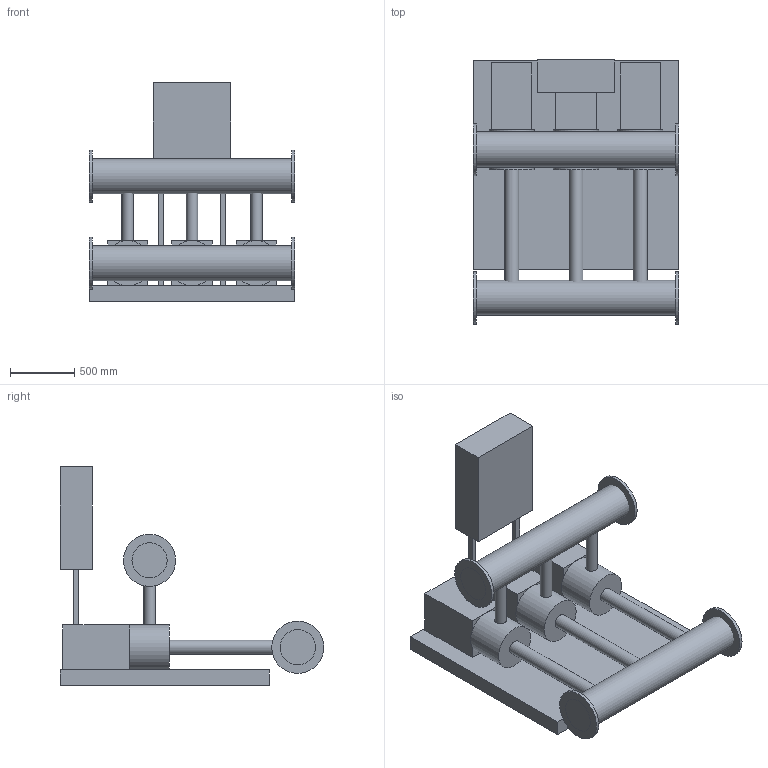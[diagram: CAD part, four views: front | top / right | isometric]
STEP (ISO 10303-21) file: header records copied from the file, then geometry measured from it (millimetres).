
FILE_DESCRIPTION(('Open CASCADE Model'),'2;1');
FILE_NAME('Open CASCADE Shape Model','2026-10-21T15:05:56',('Author'),( 'Open CASCADE'),'Open CASCADE STEP processor 7.9','Open CASCADE 7.9' ,'Unknown');
FILE_SCHEMA(('AUTOMOTIVE_DESIGN { 1 0 10303 214 1 1 1 1 }'));
Length unit declared in the file: millimetre
Products named in the file (23): Ð£ÐÐ_ÐÐ ÐÐÐÐ¬_3_FST_80_160_150; 000_ÐÐ¾Ð»Ð»ÐµÐºÑÐ¾Ñ 
Ð²ÑÐ°ÑÑÐ²Ð°ÑÑÐ¸Ð¹; 001_ÐÐ¾Ð»Ð»ÐµÐºÑÐ¾Ñ 
Ð²ÑÐ°ÑÑÐ²Ð°ÑÑÐ¸Ð¹ â 
ÑÐ»Ð°Ð½ÐµÑ ÐÑ250; 002_ÐÐ¾Ð»Ð»ÐµÐºÑÐ¾Ñ 
Ð²ÑÐ°ÑÑÐ²Ð°ÑÑÐ¸Ð¹ â 
ÑÐ»Ð°Ð½ÐµÑ ÐÑ250; 003_ÐÐ¾Ð»Ð»ÐµÐºÑÐ¾Ñ 
Ð½Ð°Ð¿Ð¾ÑÐ½ÑÐ¹; 004_ÐÐ¾Ð»Ð»ÐµÐºÑÐ¾Ñ 
Ð½Ð°Ð¿Ð¾ÑÐ½ÑÐ¹ â ÑÐ»Ð°Ð½ÐµÑ 
ÐÑ250; 005_ÐÐ¾Ð»Ð»ÐµÐºÑÐ¾Ñ 
Ð½Ð°Ð¿Ð¾ÑÐ½ÑÐ¹ â ÑÐ»Ð°Ð½ÐµÑ 
ÐÑ250; 006_Ð Ð°Ð¼Ð° (Ð¾ÑÐ½Ð¾Ð²Ð°Ð½Ð¸Ðµ); 007_ÐÐ°ÑÐ¾Ñ 1 â ÐºÐ¾ÑÐ¿ÑÑ FST 80-160; 008_ÐÐ°ÑÐ¾Ñ 1 â Ð´Ð²Ð¸Ð³Ð°ÑÐµÐ»Ñ 
15.0 ÐºÐÑ; 009_ÐÐ°ÑÐ¾Ñ 1 â Ð²ÑÐ¾Ð´ ÐÑ100; 010_ÐÐ°ÑÐ¾Ñ 1 â Ð²ÑÑÐ¾Ð´ ÐÑ80; 011_ÐÐ°ÑÐ¾Ñ 2 â ÐºÐ¾ÑÐ¿ÑÑ FST 80-160; 012_ÐÐ°ÑÐ¾Ñ 2 â Ð´Ð²Ð¸Ð³Ð°ÑÐµÐ»Ñ 
15.0 ÐºÐÑ; 013_ÐÐ°ÑÐ¾Ñ 2 â Ð²ÑÐ¾Ð´ ÐÑ100; 014_ÐÐ°ÑÐ¾Ñ 2 â Ð²ÑÑÐ¾Ð´ ÐÑ80; 015_ÐÐ°ÑÐ¾Ñ 3 â ÐºÐ¾ÑÐ¿ÑÑ FST 80-160; 016_ÐÐ°ÑÐ¾Ñ 3 â Ð´Ð²Ð¸Ð³Ð°ÑÐµÐ»Ñ 
15.0 ÐºÐÑ; 017_ÐÐ°ÑÐ¾Ñ 3 â Ð²ÑÐ¾Ð´ ÐÑ100; 018_ÐÐ°ÑÐ¾Ñ 3 â Ð²ÑÑÐ¾Ð´ ÐÑ80; 019_Ð¨ÐºÐ°Ñ ÑÐ¿ÑÐ°Ð²Ð»ÐµÐ½Ð¸Ñ; 020_Ð¡ÑÐ¾Ð¹ÐºÐ° ÑÐºÐ°ÑÐ°; 021_Ð¡ÑÐ¾Ð¹ÐºÐ° ÑÐºÐ°ÑÐ°
Assembly tree (22 placements, depth 2):
  Ð£ÐÐ_ÐÐ ÐÐÐÐ¬_3_FST_80_160_150
    000_ÐÐ¾Ð»Ð»ÐµÐºÑÐ¾Ñ 
Ð²ÑÐ°ÑÑÐ²Ð°ÑÑÐ¸Ð¹
    001_ÐÐ¾Ð»Ð»ÐµÐºÑÐ¾Ñ 
Ð²ÑÐ°ÑÑÐ²Ð°ÑÑÐ¸Ð¹ â 
ÑÐ»Ð°Ð½ÐµÑ ÐÑ250
    002_ÐÐ¾Ð»Ð»ÐµÐºÑÐ¾Ñ 
Ð²ÑÐ°ÑÑÐ²Ð°ÑÑÐ¸Ð¹ â 
ÑÐ»Ð°Ð½ÐµÑ ÐÑ250
    003_ÐÐ¾Ð»Ð»ÐµÐºÑÐ¾Ñ 
Ð½Ð°Ð¿Ð¾ÑÐ½ÑÐ¹
    004_ÐÐ¾Ð»Ð»ÐµÐºÑÐ¾Ñ 
Ð½Ð°Ð¿Ð¾ÑÐ½ÑÐ¹ â ÑÐ»Ð°Ð½ÐµÑ 
ÐÑ250
    005_ÐÐ¾Ð»Ð»ÐµÐºÑÐ¾Ñ 
Ð½Ð°Ð¿Ð¾ÑÐ½ÑÐ¹ â ÑÐ»Ð°Ð½ÐµÑ 
ÐÑ250
    006_Ð Ð°Ð¼Ð° (Ð¾ÑÐ½Ð¾Ð²Ð°Ð½Ð¸Ðµ)
    007_ÐÐ°ÑÐ¾Ñ 1 â ÐºÐ¾ÑÐ¿ÑÑ FST 80-160
    008_ÐÐ°ÑÐ¾Ñ 1 â Ð´Ð²Ð¸Ð³Ð°ÑÐµÐ»Ñ 
15.0 ÐºÐÑ
    009_ÐÐ°ÑÐ¾Ñ 1 â Ð²ÑÐ¾Ð´ ÐÑ100
    010_ÐÐ°ÑÐ¾Ñ 1 â Ð²ÑÑÐ¾Ð´ ÐÑ80
    011_ÐÐ°ÑÐ¾Ñ 2 â ÐºÐ¾ÑÐ¿ÑÑ FST 80-160
    012_ÐÐ°ÑÐ¾Ñ 2 â Ð´Ð²Ð¸Ð³Ð°ÑÐµÐ»Ñ 
15.0 ÐºÐÑ
    013_ÐÐ°ÑÐ¾Ñ 2 â Ð²ÑÐ¾Ð´ ÐÑ100
    014_ÐÐ°ÑÐ¾Ñ 2 â Ð²ÑÑÐ¾Ð´ ÐÑ80
    015_ÐÐ°ÑÐ¾Ñ 3 â ÐºÐ¾ÑÐ¿ÑÑ FST 80-160
    016_ÐÐ°ÑÐ¾Ñ 3 â Ð´Ð²Ð¸Ð³Ð°ÑÐµÐ»Ñ 
15.0 ÐºÐÑ
    017_ÐÐ°ÑÐ¾Ñ 3 â Ð²ÑÐ¾Ð´ ÐÑ100
    018_ÐÐ°ÑÐ¾Ñ 3 â Ð²ÑÑÐ¾Ð´ ÐÑ80
    019_Ð¨ÐºÐ°Ñ ÑÐ¿ÑÐ°Ð²Ð»ÐµÐ½Ð¸Ñ
    020_Ð¡ÑÐ¾Ð¹ÐºÐ° ÑÐºÐ°ÑÐ°
    021_Ð¡ÑÐ¾Ð¹ÐºÐ° ÑÐºÐ°ÑÐ°
Bounding box: 1600 x 2050 x 1700 mm (x, y, z)
Volume: 932612428.6 mm3; surface area: 17889627.2 mm2
Topology: 22 solids, 22 shells, 87 faces, 129 edges, 86 vertices
Faces by surface type: plane 72, cylinder 15
Full cylindrical faces by diameter (mm): 89 x3, 108 x3, 273 x2, 352 x3, 405 x4
Entity records: 4116 total; most frequent: DIRECTION 637, CARTESIAN_POINT 583, LINE 327, VECTOR 327, ORIENTED_EDGE 258, PCURVE 258, DEFINITIONAL_REPRESENTATION 258, AXIS2_PLACEMENT_3D 140
